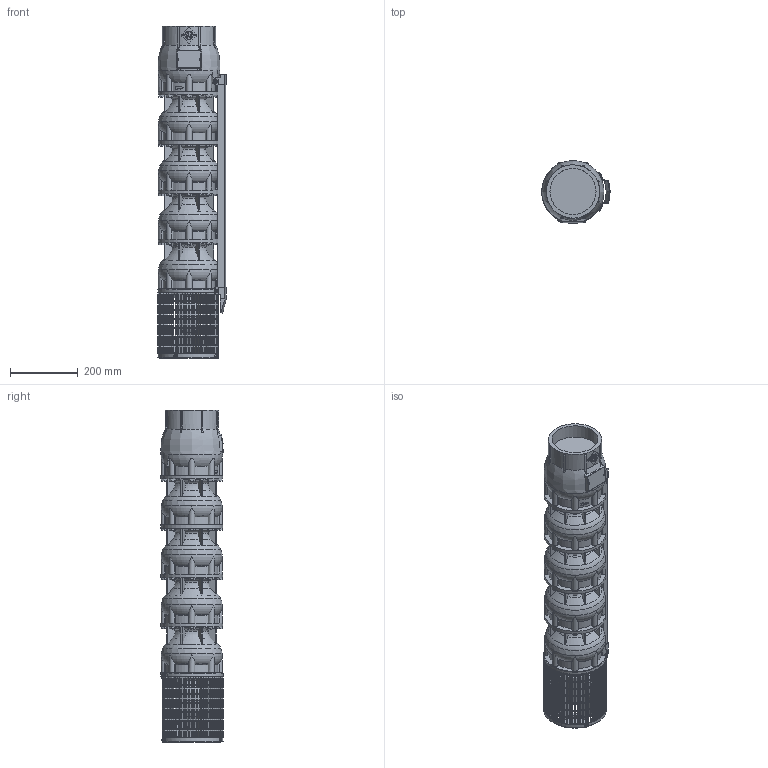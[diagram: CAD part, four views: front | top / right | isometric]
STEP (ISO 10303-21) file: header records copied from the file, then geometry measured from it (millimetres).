
FILE_DESCRIPTION(/* description */ ('Unknown'),/* implementation_level */ '2;1');
FILE_NAME(/* name */ 'VSI134-4_WR_M6-50_DLE',/* time_stamp */ '2023-09-14T13:17:37+02:00',/* author */ ('Unknown'),/* organization */ ('Unknown'),/* preprocessor_version */ 'ST-DEVELOPER v18.102',/* originating_system */ 'Solid Edge',/* authorisation */ 'Unknown');
FILE_SCHEMA (('INTEGRATED_CNC_SCHEMA','AP242_MANAGED_MODEL_BASED_3D_ENGINEERING_MIM_LF { 1 0 10303 442 1 1 4 }','AUTOMOTIVE_DESIGN {1 0 10303 214 3 1 1}'));
Products named in the file (11): VSI134-4_WR_M6-50_DLE; VSI134_testata; VSI134_diffusore; VSI134_supporto_8×6; VSI134_filtro_A; VSI134_filtro_B; VSI134_terminale_top_copricavo_basso; VSI134_terminale_bottom_copricavo_basso; LOW 134-4; M5X8_UNI7687; VSI134_giunto_8×6
Assembly tree (22 placements, depth 2):
  VSI134-4_WR_M6-50_DLE
    VSI134_testata
    VSI134_diffusore  x4
    VSI134_supporto_8×6
    VSI134_filtro_A
    VSI134_filtro_B
    VSI134_terminale_top_copricavo_basso
    VSI134_terminale_bottom_copricavo_basso
    LOW 134-4
    M5X8_UNI7687  x10
    VSI134_giunto_8×6
Bounding box: 201.57 x 183.52 x 977 mm (x, y, z)
Volume: 16282442.7 mm3; surface area: 1373469.2 mm2
Topology: 61 solids, 63 shells, 3154 faces, 8904 edges, 5935 vertices
Faces by surface type: plane 2409, cylinder 422, torus 226, cone 54, bspline 31, sphere 12
Full cylindrical faces by diameter (mm): 2.4 x2, 3 x2, 4.2 x16, 5 x10, 5.5 x8, 15 x4, 26 x1, 44 x1, 59 x1, 74 x1, 76.2 x1, 98 x1, 135.472 x1, 157 x1, 182 x5
Entity records: 83725 total; most frequent: CARTESIAN_POINT 18042, ORIENTED_EDGE 13738, DIRECTION 13166, EDGE_CURVE 6869, VERTEX_POINT 4627, AXIS2_PLACEMENT_3D 4490, LINE 4186, VECTOR 4186
